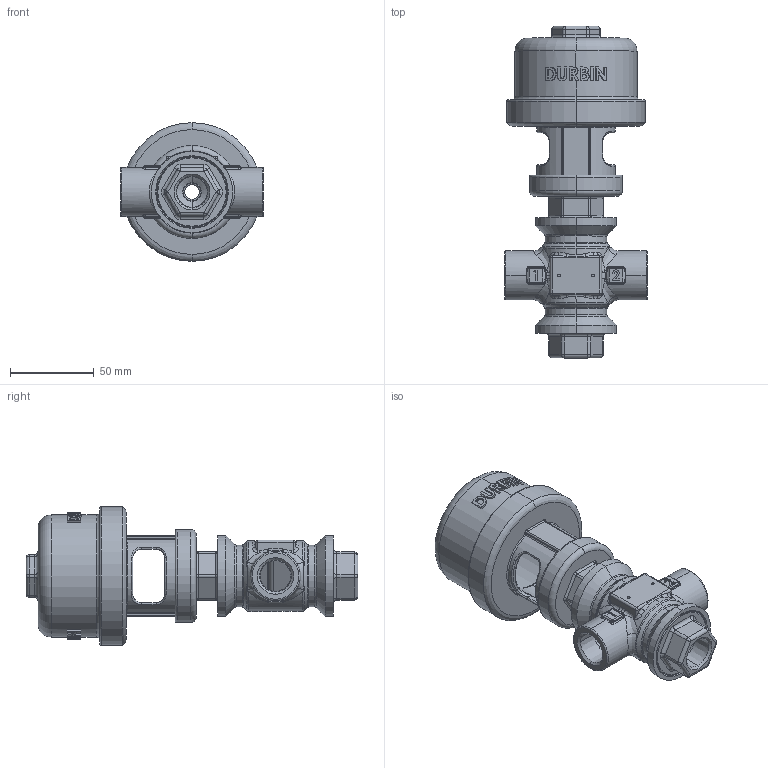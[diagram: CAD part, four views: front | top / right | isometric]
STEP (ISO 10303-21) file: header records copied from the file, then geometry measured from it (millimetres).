
FILE_DESCRIPTION (( 'STEP AP203' ), '1' );
FILE_NAME ('.25-.50 2W-3W NPT PSI-STEP.STEP', '2018-11-07T18:56:10', ( '' ), ( '' ), 'SwSTEP 2.0', 'SolidWorks 2012', '' );
FILE_SCHEMA (( 'CONFIG_CONTROL_DESIGN' ));
Length unit declared in the file: inch
Products named in the file (6): .25-.50 2W-3W NPT PSI-STEP; DCT-103; PSI-109-SS; PSI-105-SS; PSI-102-SS; PSI-101-SS
Assembly tree (5 placements, depth 2):
  .25-.50 2W-3W NPT PSI-STEP
    PSI-101-SS
    PSI-102-SS
    PSI-105-SS
    PSI-109-SS
    DCT-103
Bounding box: 85.09 x 197.6 x 82.55 mm (x, y, z)
Volume: 207505.1 mm3; surface area: 105973.7 mm2
Topology: 5 solids, 5 shells, 1129 faces, 2633 edges, 1538 vertices
Faces by surface type: cylinder 304, plane 293, bspline 207, torus 191, cone 86, sphere 48
Entity records: 51930 total; most frequent: CARTESIAN_POINT 26708, ORIENTED_EDGE 5186, DIRECTION 5139, EDGE_CURVE 2593, AXIS2_PLACEMENT_3D 2126, VERTEX_POINT 1538, EDGE_LOOP 1211, CIRCLE 1196
